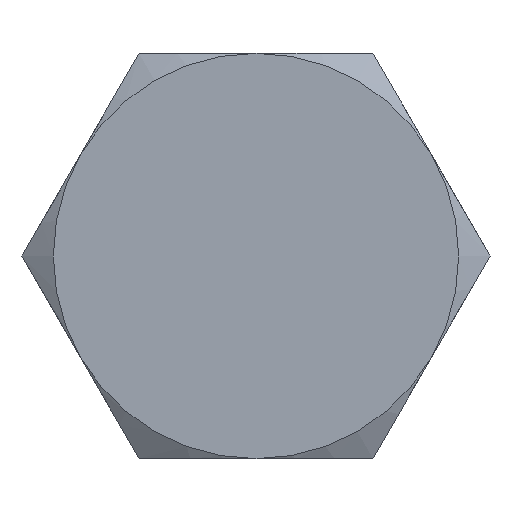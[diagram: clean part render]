
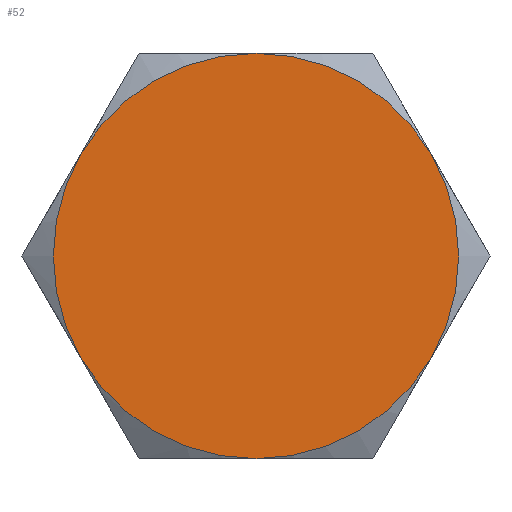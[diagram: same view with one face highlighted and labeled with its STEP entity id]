
A CAD part, left-side view. The second image highlights one B-rep face of the part: STEP entity #52.
In plain terms, the highlighted planar face has unit normal (-1, 0, 0).
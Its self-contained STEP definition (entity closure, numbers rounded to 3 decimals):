
#10 = CARTESIAN_POINT ( 'NONE',  ( 0., 5.629, -3.25 ) ) ;
#20 = DIRECTION ( 'NONE',  ( 0., 0., -1. ) ) ;
#30 = PLANE ( 'NONE',  #292 ) ;
#47 = AXIS2_PLACEMENT_3D ( 'NONE', #729, #98, #438 ) ;
#50 = DIRECTION ( 'NONE',  ( 0., 0., -1. ) ) ;
#52 = ADVANCED_FACE ( 'NONE', ( #709 ), #30, .F. ) ;
#54 = CARTESIAN_POINT ( 'NONE',  ( 0., 0., 0. ) ) ;
#65 = CIRCLE ( 'NONE', #739, 6.5 ) ;
#74 = EDGE_LOOP ( 'NONE', ( #526, #182, #488, #613, #175, #354 ) ) ;
#85 = CIRCLE ( 'NONE', #219, 6.5 ) ;
#90 = DIRECTION ( 'NONE',  ( 1., 0., 0. ) ) ;
#98 = DIRECTION ( 'NONE',  ( -1., 0., 0. ) ) ;
#126 = EDGE_CURVE ( 'NONE', #257, #375, #173, .T. ) ;
#142 = DIRECTION ( 'NONE',  ( 0., 0., -1. ) ) ;
#152 = VERTEX_POINT ( 'NONE', #604 ) ;
#173 = CIRCLE ( 'NONE', #47, 6.5 ) ;
#175 = ORIENTED_EDGE ( 'NONE', *, *, #126, .T. ) ;
#182 = ORIENTED_EDGE ( 'NONE', *, *, #300, .F. ) ;
#213 = DIRECTION ( 'NONE',  ( 0., 0., -1. ) ) ;
#216 = CARTESIAN_POINT ( 'NONE',  ( 0., 5.629, 3.25 ) ) ;
#219 = AXIS2_PLACEMENT_3D ( 'NONE', #727, #316, #213 ) ;
#229 = DIRECTION ( 'NONE',  ( 0., 0., -1. ) ) ;
#256 = EDGE_CURVE ( 'NONE', #513, #375, #85, .T. ) ;
#257 = VERTEX_POINT ( 'NONE', #535 ) ;
#292 = AXIS2_PLACEMENT_3D ( 'NONE', #475, #704, #364 ) ;
#300 = EDGE_CURVE ( 'NONE', #432, #152, #507, .T. ) ;
#316 = DIRECTION ( 'NONE',  ( 1., 0., 0. ) ) ;
#331 = CIRCLE ( 'NONE', #519, 6.5 ) ;
#337 = DIRECTION ( 'NONE',  ( 1., 0., 0. ) ) ;
#349 = CARTESIAN_POINT ( 'NONE',  ( 0., 0., 0. ) ) ;
#354 = ORIENTED_EDGE ( 'NONE', *, *, #256, .F. ) ;
#364 = DIRECTION ( 'NONE',  ( 0., 0., -1. ) ) ;
#375 = VERTEX_POINT ( 'NONE', #216 ) ;
#432 = VERTEX_POINT ( 'NONE', #525 ) ;
#438 = DIRECTION ( 'NONE',  ( 0., 0., 1. ) ) ;
#462 = DIRECTION ( 'NONE',  ( 1., 0., 0. ) ) ;
#463 = VERTEX_POINT ( 'NONE', #468 ) ;
#468 = CARTESIAN_POINT ( 'NONE',  ( 0., -5.629, 3.25 ) ) ;
#474 = EDGE_CURVE ( 'NONE', #257, #463, #331, .T. ) ;
#475 = CARTESIAN_POINT ( 'NONE',  ( 0., 7.506, 0. ) ) ;
#488 = ORIENTED_EDGE ( 'NONE', *, *, #625, .F. ) ;
#497 = AXIS2_PLACEMENT_3D ( 'NONE', #54, #337, #50 ) ;
#507 = CIRCLE ( 'NONE', #497, 6.5 ) ;
#508 = AXIS2_PLACEMENT_3D ( 'NONE', #711, #658, #142 ) ;
#513 = VERTEX_POINT ( 'NONE', #10 ) ;
#519 = AXIS2_PLACEMENT_3D ( 'NONE', #349, #462, #229 ) ;
#525 = CARTESIAN_POINT ( 'NONE',  ( 0., -5.629, -3.25 ) ) ;
#526 = ORIENTED_EDGE ( 'NONE', *, *, #656, .F. ) ;
#535 = CARTESIAN_POINT ( 'NONE',  ( 0., 0., 6.5 ) ) ;
#604 = CARTESIAN_POINT ( 'NONE',  ( 0., 0., -6.5 ) ) ;
#613 = ORIENTED_EDGE ( 'NONE', *, *, #474, .F. ) ;
#616 = CIRCLE ( 'NONE', #508, 6.5 ) ;
#625 = EDGE_CURVE ( 'NONE', #463, #432, #65, .T. ) ;
#656 = EDGE_CURVE ( 'NONE', #152, #513, #616, .T. ) ;
#658 = DIRECTION ( 'NONE',  ( 1., 0., 0. ) ) ;
#704 = DIRECTION ( 'NONE',  ( 1., 0., 0. ) ) ;
#705 = CARTESIAN_POINT ( 'NONE',  ( 0., 0., 0. ) ) ;
#709 = FACE_OUTER_BOUND ( 'NONE', #74, .T. ) ;
#711 = CARTESIAN_POINT ( 'NONE',  ( 0., 0., 0. ) ) ;
#727 = CARTESIAN_POINT ( 'NONE',  ( 0., 0., 0. ) ) ;
#729 = CARTESIAN_POINT ( 'NONE',  ( 0., 0., 0. ) ) ;
#739 = AXIS2_PLACEMENT_3D ( 'NONE', #705, #90, #20 ) ;
